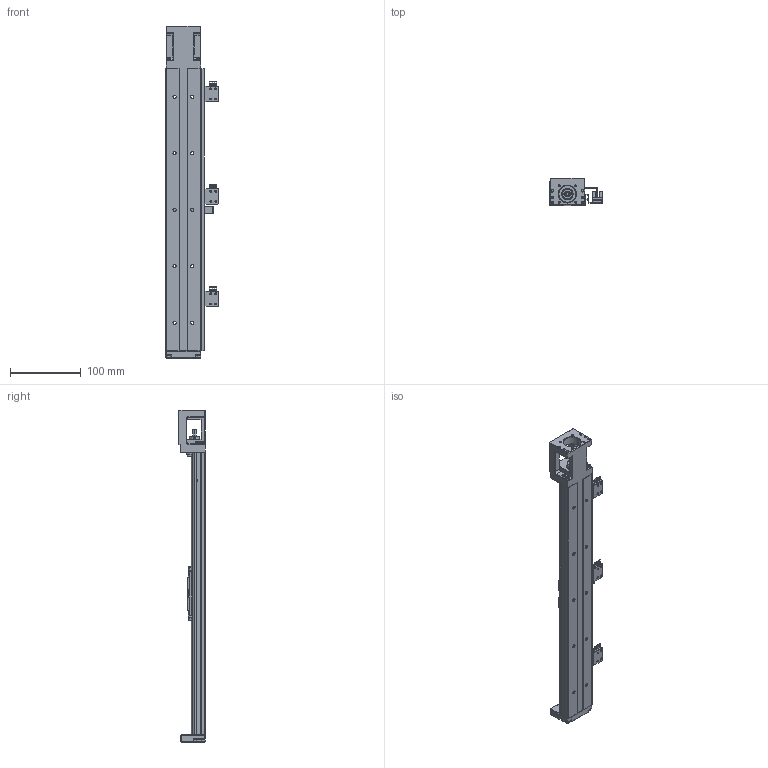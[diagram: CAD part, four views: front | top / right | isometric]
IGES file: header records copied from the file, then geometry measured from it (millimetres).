
Start section: SolidWorks IGES file using analytic representation for surfaces
Global section: file name: C:\Users\Administrator\Desktop\GSX50C-300\ﾎﾞｻｬﾌｨ\GSX50C-MF-400L-ﾎﾞｻｬﾌｨ.IGS; native system: SolidWorks 2013; preprocessor: SolidWorks 2013; author: ｹｾﾇｿ,; organization: 11; date: 170412.120050; units: millimetre
Bounding box: 74.3 x 38.5 x 470 mm (x, y, z)
Surface area: 146585.1 mm2 (no closed solid volume)
Topology: 0 solids, 0 shells, 1336 faces, 15290 edges, 15178 vertices
Faces by surface type: bspline 790, revolution 546
